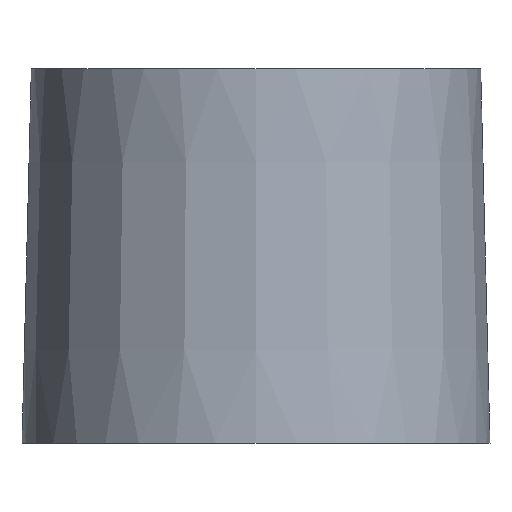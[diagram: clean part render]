
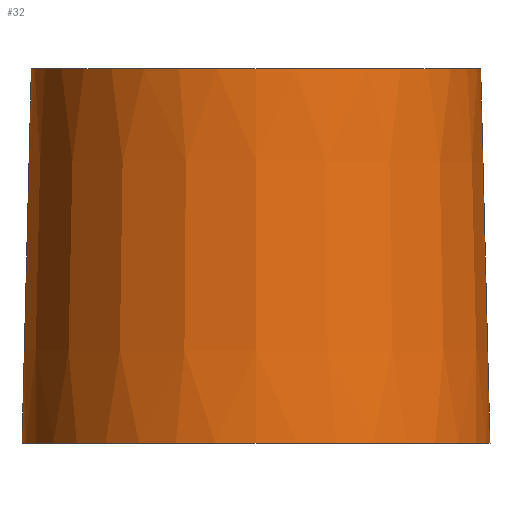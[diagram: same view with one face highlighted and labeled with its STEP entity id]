
A CAD part, front view. The second image highlights one B-rep face of the part: STEP entity #32.
In plain terms, the highlighted conical face has half-angle 1.43 degrees and reference radius 25 mm.
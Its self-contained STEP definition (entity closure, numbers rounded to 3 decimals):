
#32 = ADVANCED_FACE( '', ( #61, #62 ), #63, .T. );
#61 = FACE_BOUND( '', #84, .T. );
#62 = FACE_OUTER_BOUND( '', #85, .T. );
#63 = CONICAL_SURFACE( '', #86, 25., 0.025 );
#84 = EDGE_LOOP( '', ( #105 ) );
#85 = EDGE_LOOP( '', ( #106 ) );
#86 = AXIS2_PLACEMENT_3D( '', #107, #108, #109 );
#105 = ORIENTED_EDGE( '', *, *, #122, .T. );
#106 = ORIENTED_EDGE( '', *, *, #120, .F. );
#107 = CARTESIAN_POINT( '', ( 0., 0., -40. ) );
#108 = DIRECTION( '', ( 0., 0., -1. ) );
#109 = DIRECTION( '', ( 0., 1., 0. ) );
#120 = EDGE_CURVE( '', #130, #130, #131, .T. );
#122 = EDGE_CURVE( '', #133, #133, #134, .T. );
#130 = VERTEX_POINT( '', #142 );
#131 = CIRCLE( '', #143, 25. );
#133 = VERTEX_POINT( '', #145 );
#134 = CIRCLE( '', #146, 24.001 );
#142 = CARTESIAN_POINT( '', ( 0., 25., -40. ) );
#143 = AXIS2_PLACEMENT_3D( '', #154, #155, #156 );
#145 = CARTESIAN_POINT( '', ( 0., 24.001, 0. ) );
#146 = AXIS2_PLACEMENT_3D( '', #157, #158, #159 );
#154 = CARTESIAN_POINT( '', ( 0., 0., -40. ) );
#155 = DIRECTION( '', ( 0., 0., -1. ) );
#156 = DIRECTION( '', ( 0., 1., 0. ) );
#157 = CARTESIAN_POINT( '', ( 0., 0., 0. ) );
#158 = DIRECTION( '', ( 0., 0., -1. ) );
#159 = DIRECTION( '', ( 0., 1., 0. ) );
